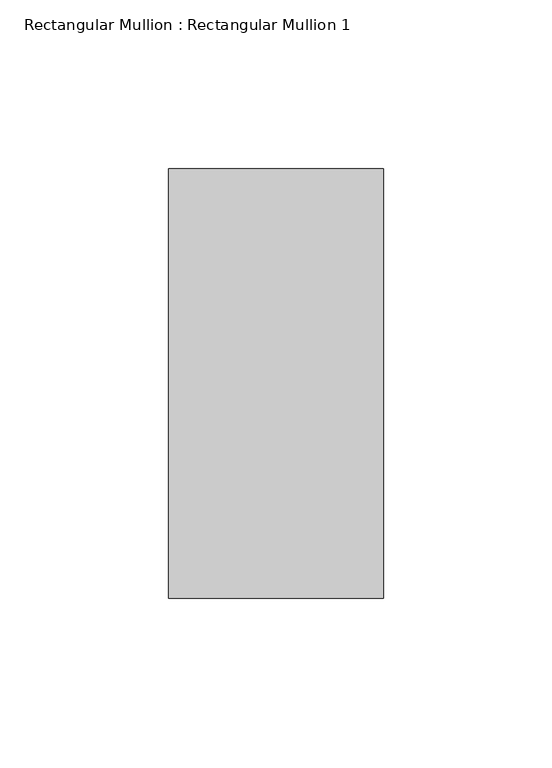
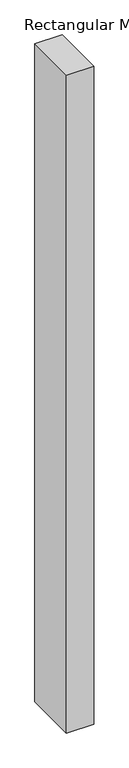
"""IFC4 building model written with IfcOpenShell, lengths in millimetres: member geometry, Rectangular Mullion : Rectangular Mullion 1."""

from ifc_helpers import new_model, si_unit, frame, origin, place, context, project, spatial, polyline, outline, extrude, source, transform, mapped, element, save


def rectangular_mullion_rectangular_mullion_1_a9c130e0(model_context):
    return source(origin(), model_context, "Body", "SweptSolid", [
        extrude(outline(polyline([(0.0, 63.5), (0.0, -63.5), (-63.5, -63.5), (-63.5, 63.5), (0.0, 63.5)])), frame((0.0, 0.0, -1621.4166668), z_axis=(0.0, 0.0, 1.0), x_axis=(1.0, 0.0, 0.0)), (0.0, 0.0, 1.0), 1621.4166668),
    ])


if __name__ == "__main__":
    model = new_model("IFC4")
    model_context = context("Model", 3, world=origin())
    ifc_project = project(units=[si_unit("LENGTHUNIT", "METRE", prefix="MILLI")], contexts=[model_context])
    site = spatial("IfcSite", under=ifc_project)
    building = spatial("IfcBuilding", under=site)
    placement = place(None, origin())
    rectangular_mullion_rectangular_mullion_1_shape = rectangular_mullion_rectangular_mullion_1_a9c130e0(model_context)
    element("IfcMember", 1, ObjectType="Rectangular Mullion : Rectangular Mullion 1", at=placement, inside=building, context=model_context, shape_type="MappedRepresentation", body=[
        mapped(rectangular_mullion_rectangular_mullion_1_shape, transform((0.0, 0.0, 0.0), x_axis=(1.0, 0.0, 0.0), y_axis=(0.0, 1.0, 0.0), z_axis=(0.0, 0.0, 1.0))),
    ])
    save(model, "model.ifc")
